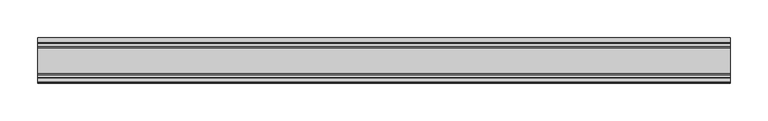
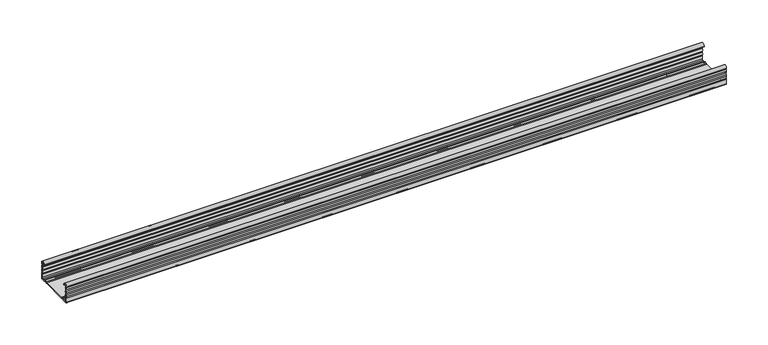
"""IFC4 building model written with IfcOpenShell, lengths in millimetres: proxy geometry, Несущий КНАУФ-профиль ПП 60х27 : Несущий КНАУФ-профиль ПП 60х27."""

from ifc_helpers import new_model, si_unit, point, frame, frame_2d, origin, place, context, project, spatial, polyline, circle_curve, trimmed, segment, composite_curve, outline, extrude, source, transform, mapped, element, save


def generic_models_b85798e0(model_context):
    return source(origin(), model_context, "Body", "SweptSolid", [
        extrude(outline(composite_curve([segment(trimmed(circle_curve(frame_2d((30.75, 21.1911057)), 1.95), [point((29.424, 22.6208693))], [point((29.424, 19.7613421))], True, "CARTESIAN"), True, "CONTINUOUS"), segment(trimmed(circle_curve(frame_2d((28.2, 18.4415603)), 1.8), [point((29.424, 19.7613421))], [point((29.6853338, 17.4248088))], False, "CARTESIAN"), True, "CONTINUOUS"), segment(trimmed(circle_curve(frame_2d((30.75, 15.7911057)), 1.95), [point((29.6853338, 17.4248088))], [point((29.6853338, 14.1574026))], True, "CARTESIAN"), True, "CONTINUOUS"), segment(trimmed(circle_curve(frame_2d((28.2, 13.1406511)), 1.8), [point((29.6853338, 14.1574026))], [point((29.424, 11.8208693))], False, "CARTESIAN"), True, "CONTINUOUS"), segment(trimmed(circle_curve(frame_2d((30.75, 10.3911057)), 1.95), [point((29.424, 11.8208693))], [point((29.424, 8.9613421))], True, "CARTESIAN"), True, "CONTINUOUS"), segment(trimmed(circle_curve(frame_2d((28.2, 7.6415603)), 1.8), [point((29.424, 8.9613421))], [point((30.0, 7.6415603))], False, "CARTESIAN"), True, "CONTINUOUS"), segment(polyline([(30.0, 7.6415603), (30.0, 1.2)]), True, "CONTINUOUS"), segment(trimmed(circle_curve(frame_2d((28.8, 1.2)), 1.2), [point((30.0, 1.2))], [point((28.8, 0.0))], False, "CARTESIAN"), True, "CONTINUOUS"), segment(polyline([(28.8, 0.0), (23.4819519, 0.0)]), True, "CONTINUOUS"), segment(trimmed(circle_curve(frame_2d((23.4819519, 1.8)), 1.8), [point((23.4819519, 0.0))], [point((22.1621701, 0.576))], False, "CARTESIAN"), True, "CONTINUOUS"), segment(trimmed(circle_curve(frame_2d((20.7324065, -0.75)), 1.95), [point((22.1621701, 0.576))], [point((19.3026429, 0.576))], True, "CARTESIAN"), True, "CONTINUOUS"), segment(trimmed(circle_curve(frame_2d((17.9828611, 1.8)), 1.8), [point((19.3026429, 0.576))], [point((17.9828611, 0.0))], False, "CARTESIAN"), True, "CONTINUOUS"), segment(polyline([(17.9828611, 0.0), (-17.9828611, 0.0)]), True, "CONTINUOUS"), segment(trimmed(circle_curve(frame_2d((-17.9828611, 1.8)), 1.8), [point((-17.9828611, 0.0))], [point((-19.3026429, 0.576))], False, "CARTESIAN"), True, "CONTINUOUS"), segment(trimmed(circle_curve(frame_2d((-20.7324065, -0.75)), 1.95), [point((-19.3026429, 0.576))], [point((-22.1621701, 0.576))], True, "CARTESIAN"), True, "CONTINUOUS"), segment(trimmed(circle_curve(frame_2d((-23.4819519, 1.8)), 1.8), [point((-22.1621701, 0.576))], [point((-23.4819519, 0.0))], False, "CARTESIAN"), True, "CONTINUOUS"), segment(polyline([(-23.4819519, 0.0), (-28.8, 0.0)]), True, "CONTINUOUS"), segment(trimmed(circle_curve(frame_2d((-28.8, 1.2)), 1.2), [point((-28.8, 0.0))], [point((-30.0, 1.2))], False, "CARTESIAN"), True, "CONTINUOUS"), segment(polyline([(-30.0, 1.2), (-30.0, 7.6415603)]), True, "CONTINUOUS"), segment(trimmed(circle_curve(frame_2d((-28.2, 7.6415603)), 1.8), [point((-30.0, 7.6415603))], [point((-29.424, 8.9613421))], False, "CARTESIAN"), True, "CONTINUOUS"), segment(trimmed(circle_curve(frame_2d((-30.75, 10.3911057)), 1.95), [point((-29.424, 8.9613421))], [point((-29.424, 11.8208693))], True, "CARTESIAN"), True, "CONTINUOUS"), segment(trimmed(circle_curve(frame_2d((-28.2, 13.1406511)), 1.8), [point((-29.424, 11.8208693))], [point((-29.6853338, 14.1574026))], False, "CARTESIAN"), True, "CONTINUOUS"), segment(trimmed(circle_curve(frame_2d((-30.75, 15.7911057)), 1.95), [point((-29.6853338, 14.1574026))], [point((-29.6853338, 17.4248088))], True, "CARTESIAN"), True, "CONTINUOUS"), segment(trimmed(circle_curve(frame_2d((-28.2, 18.4415603)), 1.8), [point((-29.6853338, 17.4248088))], [point((-29.424, 19.7613421))], False, "CARTESIAN"), True, "CONTINUOUS"), segment(trimmed(circle_curve(frame_2d((-30.75, 21.1911057)), 1.95), [point((-29.424, 19.7613421))], [point((-29.424, 22.6208693))], True, "CARTESIAN"), True, "CONTINUOUS"), segment(trimmed(circle_curve(frame_2d((-28.2, 23.9406511)), 1.8), [point((-29.424, 22.6208693))], [point((-29.9990651, 23.8826448))], False, "CARTESIAN"), True, "CONTINUOUS"), segment(trimmed(circle_curve(frame_2d((-26.8817099, 23.8826448)), 3.1173552), [point((-29.9990651, 23.8826448))], [point((-23.7643548, 23.8826448))], False, "CARTESIAN"), True, "CONTINUOUS"), segment(polyline([(-23.7643548, 23.8826448), (-23.7643548, 23.0407729), (-24.9643548, 23.0407729), (-24.9643548, 23.8826448)]), True, "CONTINUOUS"), segment(trimmed(circle_curve(frame_2d((-26.8817099, 23.8826448)), 1.9173552), [point((-24.9643548, 23.8826448))], [point((-28.7514388, 24.3073386))], True, "CARTESIAN"), True, "CONTINUOUS"), segment(trimmed(circle_curve(frame_2d((-27.7762784, 24.0858388)), 1.0), [point((-28.7514388, 24.3073386))], [point((-28.4928378, 23.3883128))], True, "CARTESIAN"), True, "CONTINUOUS"), segment(trimmed(circle_curve(frame_2d((-30.75, 21.1911057)), 3.15), [point((-28.4928378, 23.3883128))], [point((-28.3578316, 19.1417081))], False, "CARTESIAN"), True, "CONTINUOUS"), segment(trimmed(circle_curve(frame_2d((-27.5984131, 18.4911057)), 1.0), [point((-28.3578316, 19.1417081))], [point((-28.3578316, 17.8405033))], True, "CARTESIAN"), True, "CONTINUOUS"), segment(trimmed(circle_curve(frame_2d((-30.75, 15.7911057)), 3.15), [point((-28.3578316, 17.8405033))], [point((-28.3578316, 13.7417081))], False, "CARTESIAN"), True, "CONTINUOUS"), segment(trimmed(circle_curve(frame_2d((-27.5984131, 13.0911057)), 1.0), [point((-28.3578316, 13.7417081))], [point((-28.3578316, 12.4405033))], True, "CARTESIAN"), True, "CONTINUOUS"), segment(trimmed(circle_curve(frame_2d((-30.75, 10.3911057)), 3.15), [point((-28.3578316, 12.4405033))], [point((-28.3339806, 8.3698808))], False, "CARTESIAN"), True, "CONTINUOUS"), segment(trimmed(circle_curve(frame_2d((-26.8, 7.0865634)), 2.0), [point((-28.3339806, 8.3698808))], [point((-28.8, 7.0865634))], True, "CARTESIAN"), True, "CONTINUOUS"), segment(polyline([(-28.8, 7.0865634), (-28.8, 2.4)]), True, "CONTINUOUS"), segment(trimmed(circle_curve(frame_2d((-27.6, 2.4)), 1.2), [point((-28.8, 2.4))], [point((-27.6, 1.2))], True, "CARTESIAN"), True, "CONTINUOUS"), segment(polyline([(-27.6, 1.2), (-24.382064, 1.2)]), True, "CONTINUOUS"), segment(trimmed(circle_curve(frame_2d((-24.382064, 4.2)), 3.0), [point((-24.382064, 1.2))], [point((-22.6017433, 1.7853659))], True, "CARTESIAN"), True, "CONTINUOUS"), segment(trimmed(circle_curve(frame_2d((-20.7324065, -0.75)), 3.15), [point((-22.6017433, 1.7853659))], [point((-18.8630697, 1.7853659))], False, "CARTESIAN"), True, "CONTINUOUS"), segment(trimmed(circle_curve(frame_2d((-17.082749, 4.2)), 3.0), [point((-18.8630697, 1.7853659))], [point((-17.082749, 1.2))], True, "CARTESIAN"), True, "CONTINUOUS"), segment(polyline([(-17.082749, 1.2), (17.082749, 1.2)]), True, "CONTINUOUS"), segment(trimmed(circle_curve(frame_2d((17.082749, 4.2)), 3.0), [point((17.082749, 1.2))], [point((18.8630697, 1.7853659))], True, "CARTESIAN"), True, "CONTINUOUS"), segment(trimmed(circle_curve(frame_2d((20.7324065, -0.75)), 3.15), [point((18.8630697, 1.7853659))], [point((22.6017433, 1.7853659))], False, "CARTESIAN"), True, "CONTINUOUS"), segment(trimmed(circle_curve(frame_2d((24.382064, 4.2)), 3.0), [point((22.6017433, 1.7853659))], [point((24.382064, 1.2))], True, "CARTESIAN"), True, "CONTINUOUS"), segment(polyline([(24.382064, 1.2), (27.6182196, 1.2)]), True, "CONTINUOUS"), segment(trimmed(circle_curve(frame_2d((27.6182196, 2.3817804)), 1.1817804), [point((27.6182196, 1.2))], [point((28.8, 2.3817804))], True, "CARTESIAN"), True, "CONTINUOUS"), segment(polyline([(28.8, 2.3817804), (28.8, 7.0865634)]), True, "CONTINUOUS"), segment(trimmed(circle_curve(frame_2d((26.8, 7.0865634)), 2.0), [point((28.8, 7.0865634))], [point((28.3339806, 8.3698808))], True, "CARTESIAN"), True, "CONTINUOUS"), segment(trimmed(circle_curve(frame_2d((30.75, 10.3911057)), 3.15), [point((28.3339806, 8.3698808))], [point((28.3578316, 12.4405033))], False, "CARTESIAN"), True, "CONTINUOUS"), segment(trimmed(circle_curve(frame_2d((27.5984131, 13.0911057)), 1.0), [point((28.3578316, 12.4405033))], [point((28.3578316, 13.7417081))], True, "CARTESIAN"), True, "CONTINUOUS"), segment(trimmed(circle_curve(frame_2d((30.75, 15.7911057)), 3.15), [point((28.3578316, 13.7417081))], [point((28.3578316, 17.8405033))], False, "CARTESIAN"), True, "CONTINUOUS"), segment(trimmed(circle_curve(frame_2d((27.5984131, 18.4911057)), 1.0), [point((28.3578316, 17.8405033))], [point((28.3578316, 19.1417081))], True, "CARTESIAN"), True, "CONTINUOUS"), segment(trimmed(circle_curve(frame_2d((30.75, 21.1911057)), 3.15), [point((28.3578316, 19.1417081))], [point((28.4928378, 23.3883128))], False, "CARTESIAN"), True, "CONTINUOUS"), segment(trimmed(circle_curve(frame_2d((27.7762784, 24.0858388)), 1.0), [point((28.4928378, 23.3883128))], [point((28.7514388, 24.3073386))], True, "CARTESIAN"), True, "CONTINUOUS"), segment(trimmed(circle_curve(frame_2d((26.8817099, 23.8826448)), 1.9173552), [point((28.7514388, 24.3073386))], [point((24.9643548, 23.8826448))], True, "CARTESIAN"), True, "CONTINUOUS"), segment(polyline([(24.9643548, 23.8826448), (24.9643548, 23.0407729), (23.7643548, 23.0407729), (23.7643548, 23.8826448)]), True, "CONTINUOUS"), segment(trimmed(circle_curve(frame_2d((26.8817099, 23.8826448)), 3.1173552), [point((23.7643548, 23.8826448))], [point((29.9990651, 23.8826448))], False, "CARTESIAN"), True, "CONTINUOUS"), segment(trimmed(circle_curve(frame_2d((28.2, 23.9406511)), 1.8), [point((29.9990651, 23.8826448))], [point((29.424, 22.6208693))], False, "CARTESIAN"), True, "CONTINUOUS")], self_intersect=False)), frame((-458.4497712, 0.0, 0.0), z_axis=(1.0, 0.0, 0.0), x_axis=(0.0, 1.0, 0.0)), (0.0, 0.0, 1.0), 916.8995423),
    ])


if __name__ == "__main__":
    model = new_model("IFC4")
    model_context = context("Model", 3, world=origin())
    ifc_project = project(units=[si_unit("LENGTHUNIT", "METRE", prefix="MILLI")], contexts=[model_context])
    site = spatial("IfcSite", under=ifc_project)
    building = spatial("IfcBuilding", under=site)
    placement = place(None, origin())
    generic_models_shape = generic_models_b85798e0(model_context)
    element("IfcBuildingElementProxy", 1, Name="Несущий КНАУФ-профиль ПП 60х27 : Несущий КНАУФ-профиль ПП 60х27", ObjectType="Несущий КНАУФ-профиль ПП 60х27 : Несущий КНАУФ-профиль ПП 60х27", at=placement, inside=building, context=model_context, shape_type="MappedRepresentation", body=[
        mapped(generic_models_shape, transform((0.0, 0.0, 0.0), x_axis=(1.0, 0.0, 0.0), y_axis=(0.0, 1.0, 0.0), z_axis=(0.0, 0.0, 1.0))),
    ])
    save(model, "model.ifc")
